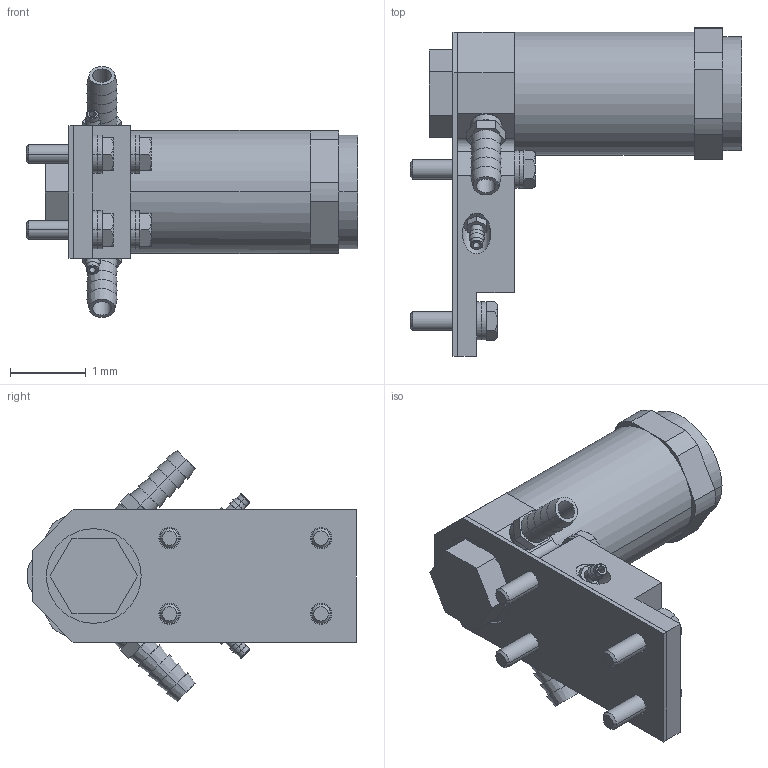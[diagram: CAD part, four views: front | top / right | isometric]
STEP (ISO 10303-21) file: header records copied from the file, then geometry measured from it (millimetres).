
FILE_DESCRIPTION((''),'2;1');
FILE_NAME('XMR4.stp','2017-11-07T12:51:54',(''),(''),'Mechanical Desktop 2011','Mechanical Desktop 2011',', , ');
FILE_SCHEMA(('CONFIG_CONTROL_DESIGN'));
Length unit declared in the file: millimetre
Products named in the file (1): Product
Bounding box: 4.38 x 4.34 x 3.31 mm (x, y, z)
Volume: 11.6 mm3; surface area: 88.3 mm2
Topology: 23 solids, 23 shells, 362 faces, 789 edges, 507 vertices
Faces by surface type: plane 132, cylinder 103, cone 62, bspline 61, torus 4
Full cylindrical faces by diameter (mm): 0.375 x1
Entity records: 10882 total; most frequent: CARTESIAN_POINT 2808, DIRECTION 1700, ORIENTED_EDGE 1578, EDGE_CURVE 789, AXIS2_PLACEMENT_3D 659, VERTEX_POINT 507, EDGE_LOOP 442, VECTOR 382
